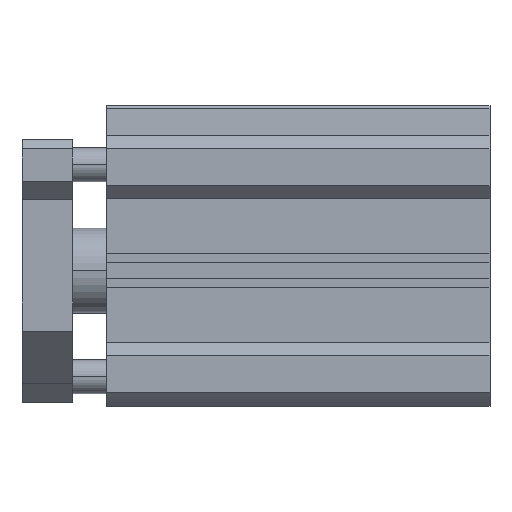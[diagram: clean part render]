
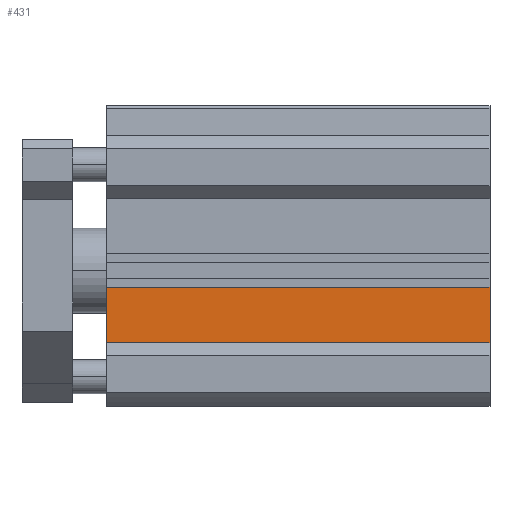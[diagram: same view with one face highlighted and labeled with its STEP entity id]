
A CAD part, top view. The second image highlights one B-rep face of the part: STEP entity #431.
In plain terms, the highlighted planar face has unit normal (0, 0, 1).
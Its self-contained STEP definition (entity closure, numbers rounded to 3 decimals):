
#158 = DIRECTION ( 'NONE',  ( 0., -1., 0. ) ) ;
#332 = CARTESIAN_POINT ( 'NONE',  ( 90.5, -17., 29. ) ) ;
#409 = CARTESIAN_POINT ( 'NONE',  ( 0., -17., 29. ) ) ;
#431 = ADVANCED_FACE ( 'NONE', ( #773 ), #3811, .F. ) ;
#715 = CARTESIAN_POINT ( 'NONE',  ( 90.5, -4., 29. ) ) ;
#773 = FACE_OUTER_BOUND ( 'NONE', #927, .T. ) ;
#808 = DIRECTION ( 'NONE',  ( -1., 0., 0. ) ) ;
#817 = VERTEX_POINT ( 'NONE', #332 ) ;
#920 = VERTEX_POINT ( 'NONE', #409 ) ;
#927 = EDGE_LOOP ( 'NONE', ( #1653, #3810, #2875, #2293 ) ) ;
#1024 = DIRECTION ( 'NONE',  ( 0., -1., 0. ) ) ;
#1082 = DIRECTION ( 'NONE',  ( -1., 0., 0. ) ) ;
#1149 = CARTESIAN_POINT ( 'NONE',  ( 90.5, -4., 29. ) ) ;
#1379 = LINE ( 'NONE', #1810, #1940 ) ;
#1492 = LINE ( 'NONE', #2161, #4938 ) ;
#1653 = ORIENTED_EDGE ( 'NONE', *, *, #2754, .T. ) ;
#1810 = CARTESIAN_POINT ( 'NONE',  ( 90.5, -4., 29. ) ) ;
#1931 = CARTESIAN_POINT ( 'NONE',  ( 0., -4., 29. ) ) ;
#1940 = VECTOR ( 'NONE', #1024, 1000. ) ;
#1975 = VERTEX_POINT ( 'NONE', #1931 ) ;
#2161 = CARTESIAN_POINT ( 'NONE',  ( 90.5, -17., 29. ) ) ;
#2206 = DIRECTION ( 'NONE',  ( 0., 0., -1. ) ) ;
#2293 = ORIENTED_EDGE ( 'NONE', *, *, #3670, .T. ) ;
#2754 = EDGE_CURVE ( 'NONE', #1975, #920, #3622, .T. ) ;
#2875 = ORIENTED_EDGE ( 'NONE', *, *, #3496, .F. ) ;
#3135 = LINE ( 'NONE', #3537, #4528 ) ;
#3492 = EDGE_CURVE ( 'NONE', #817, #920, #1492, .T. ) ;
#3496 = EDGE_CURVE ( 'NONE', #4837, #817, #1379, .T. ) ;
#3537 = CARTESIAN_POINT ( 'NONE',  ( 90.5, -4., 29. ) ) ;
#3622 = LINE ( 'NONE', #4786, #4360 ) ;
#3670 = EDGE_CURVE ( 'NONE', #4837, #1975, #3135, .T. ) ;
#3810 = ORIENTED_EDGE ( 'NONE', *, *, #3492, .F. ) ;
#3811 = PLANE ( 'NONE',  #4063 ) ;
#4063 = AXIS2_PLACEMENT_3D ( 'NONE', #1149, #2206, #4555 ) ;
#4360 = VECTOR ( 'NONE', #158, 1000. ) ;
#4528 = VECTOR ( 'NONE', #808, 1000. ) ;
#4555 = DIRECTION ( 'NONE',  ( 0., -1., 0. ) ) ;
#4786 = CARTESIAN_POINT ( 'NONE',  ( 0., -4., 29. ) ) ;
#4837 = VERTEX_POINT ( 'NONE', #715 ) ;
#4938 = VECTOR ( 'NONE', #1082, 1000. ) ;
